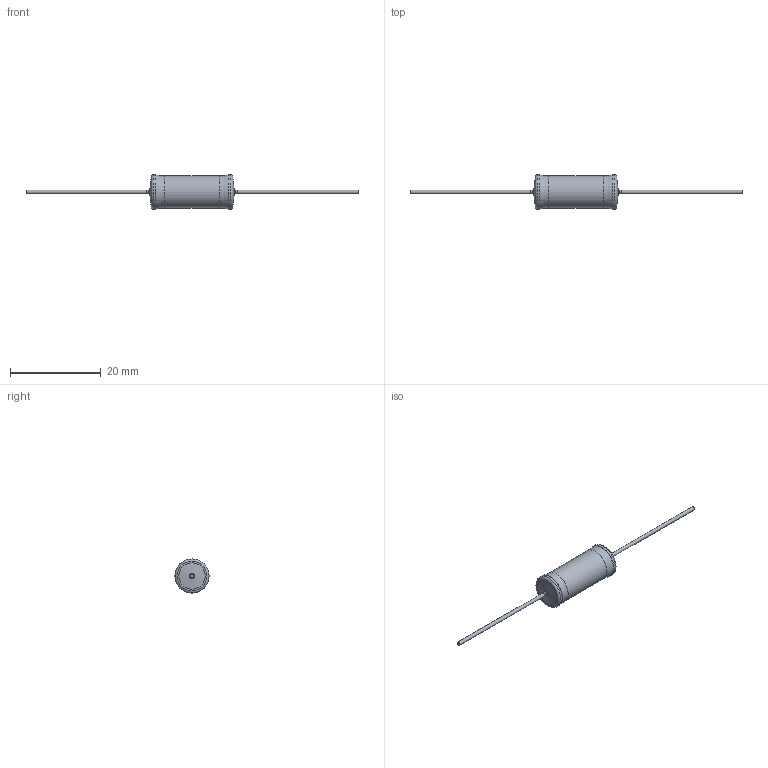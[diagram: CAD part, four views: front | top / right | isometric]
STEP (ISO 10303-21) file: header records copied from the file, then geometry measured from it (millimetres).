
FILE_DESCRIPTION(/* description */ (''),/* implementation_level */ '2;1');
FILE_NAME(/* name */ 'P:\Work\User\Special\CAD\Marketing\PAC04.stp',/* time_stamp */ '2020-02-19T08:53:11+01:00',/* author */ ('klepschi'),/* organization */ (''),/* preprocessor_version */ 'ST-DEVELOPER v16.5',/* originating_system */ 'Autodesk Inventor 2017',/* authorisation */ '');
FILE_SCHEMA (('AUTOMOTIVE_DESIGN { 1 0 10303 214 3 1 1 }'));
Length unit declared in the file: millimetre
Products named in the file (1): PAC04
Bounding box: 73 x 7.5 x 7.5 mm (x, y, z)
Volume: 758.9 mm3; surface area: 621.1 mm2
Topology: 1 solids, 1 shells, 27 faces, 47 edges, 28 vertices
Faces by surface type: cylinder 9, plane 8, torus 8, cone 2
Full cylindrical faces by diameter (mm): 0.798 x2, 0.8 x4, 7.1 x1, 7.5 x2
Entity records: 605 total; most frequent: DIRECTION 108, CARTESIAN_POINT 80, AXIS2_PLACEMENT_3D 54, EDGE_LOOP 52, ORIENTED_EDGE 52, STYLED_ITEM 28, FACE_OUTER_BOUND 27, ADVANCED_FACE 27
